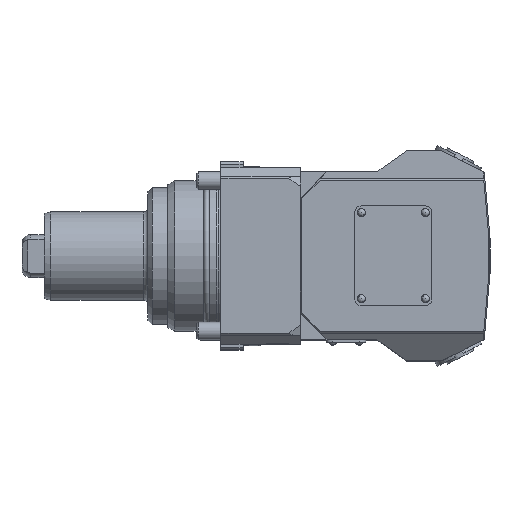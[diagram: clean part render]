
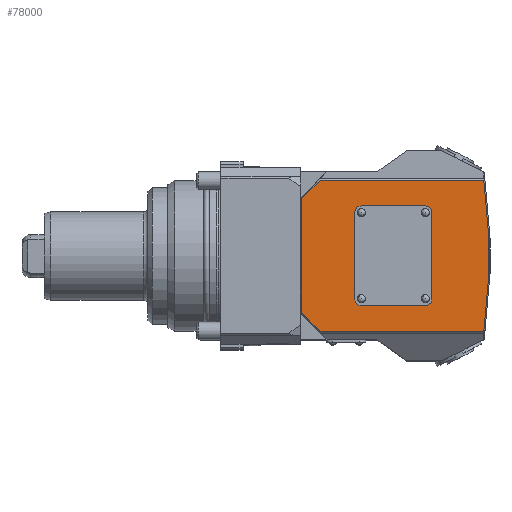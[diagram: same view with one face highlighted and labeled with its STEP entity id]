
A CAD part, top view. The second image highlights one B-rep face of the part: STEP entity #78000.
In plain terms, the highlighted planar face has unit normal (0, 0, 1).
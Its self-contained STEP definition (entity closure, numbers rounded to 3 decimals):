
#34302=CIRCLE('',#75937,3.);
#34303=CIRCLE('',#75938,3.);
#34304=CIRCLE('',#75939,3.);
#34305=CIRCLE('',#75940,3.);
#36768=ORIENTED_EDGE('',*,*,#46270,.F.);
#36769=ORIENTED_EDGE('',*,*,#46271,.F.);
#36770=ORIENTED_EDGE('',*,*,#46272,.F.);
#36771=ORIENTED_EDGE('',*,*,#46273,.F.);
#36772=ORIENTED_EDGE('',*,*,#46274,.F.);
#36773=ORIENTED_EDGE('',*,*,#46275,.F.);
#36774=ORIENTED_EDGE('',*,*,#46267,.F.);
#36775=ORIENTED_EDGE('',*,*,#46276,.F.);
#36776=ORIENTED_EDGE('',*,*,#46277,.F.);
#36777=ORIENTED_EDGE('',*,*,#46278,.T.);
#36778=ORIENTED_EDGE('',*,*,#46279,.F.);
#36779=ORIENTED_EDGE('',*,*,#46280,.T.);
#36780=ORIENTED_EDGE('',*,*,#46281,.F.);
#36781=ORIENTED_EDGE('',*,*,#46282,.T.);
#36782=ORIENTED_EDGE('',*,*,#46283,.F.);
#36783=ORIENTED_EDGE('',*,*,#46284,.T.);
#40846=VECTOR('',#53321,1.);
#40849=VECTOR('',#53326,1.);
#40850=VECTOR('',#53327,1.);
#40851=VECTOR('',#53328,1.);
#40852=VECTOR('',#53329,1.);
#40853=VECTOR('',#53330,1.);
#40854=VECTOR('',#53331,1.);
#40855=VECTOR('',#53332,1.);
#40856=VECTOR('',#53333,1.);
#40857=VECTOR('',#53336,1.);
#40858=VECTOR('',#53339,1.);
#40859=VECTOR('',#53342,1.);
#42251=LINE('',#63211,#40846);
#42254=LINE('',#63218,#40849);
#42255=LINE('',#63220,#40850);
#42256=LINE('',#63222,#40851);
#42257=LINE('',#63224,#40852);
#42258=LINE('',#63226,#40853);
#42259=LINE('',#63227,#40854);
#42260=LINE('',#63228,#40855);
#42261=LINE('',#63231,#40856);
#42262=LINE('',#63235,#40857);
#42263=LINE('',#63239,#40858);
#42264=LINE('',#63243,#40859);
#43939=VERTEX_POINT('',#63206);
#43940=VERTEX_POINT('',#63210);
#43942=VERTEX_POINT('',#63216);
#43943=VERTEX_POINT('',#63217);
#43944=VERTEX_POINT('',#63219);
#43945=VERTEX_POINT('',#63221);
#43946=VERTEX_POINT('',#63223);
#43947=VERTEX_POINT('',#63225);
#43948=VERTEX_POINT('',#63229);
#43949=VERTEX_POINT('',#63230);
#43950=VERTEX_POINT('',#63232);
#43951=VERTEX_POINT('',#63234);
#43952=VERTEX_POINT('',#63236);
#43953=VERTEX_POINT('',#63238);
#43954=VERTEX_POINT('',#63240);
#43955=VERTEX_POINT('',#63242);
#46267=EDGE_CURVE('',#43939,#43940,#42251,.T.);
#46270=EDGE_CURVE('',#43942,#43943,#42254,.T.);
#46271=EDGE_CURVE('',#43944,#43942,#42255,.T.);
#46272=EDGE_CURVE('',#43945,#43944,#42256,.T.);
#46273=EDGE_CURVE('',#43946,#43945,#42257,.T.);
#46274=EDGE_CURVE('',#43947,#43946,#42258,.T.);
#46275=EDGE_CURVE('',#43940,#43947,#42259,.T.);
#46276=EDGE_CURVE('',#43943,#43939,#42260,.T.);
#46277=EDGE_CURVE('',#43948,#43949,#42261,.T.);
#46278=EDGE_CURVE('',#43948,#43950,#34302,.T.);
#46279=EDGE_CURVE('',#43951,#43950,#42262,.T.);
#46280=EDGE_CURVE('',#43951,#43952,#34303,.T.);
#46281=EDGE_CURVE('',#43953,#43952,#42263,.T.);
#46282=EDGE_CURVE('',#43953,#43954,#34304,.T.);
#46283=EDGE_CURVE('',#43955,#43954,#42264,.T.);
#46284=EDGE_CURVE('',#43955,#43949,#34305,.T.);
#48553=EDGE_LOOP('',(#36768,#36769,#36770,#36771,#36772,#36773,#36774,#36775));
#48554=EDGE_LOOP('',(#36776,#36777,#36778,#36779,#36780,#36781,#36782,#36783));
#49991=FACE_BOUND('',#48553,.T.);
#49992=FACE_BOUND('',#48554,.T.);
#53321=DIRECTION('',(-74.022,0.,0.));
#53324=DIRECTION('',(0.,0.,1.));
#53325=DIRECTION('',(0.,-1.,0.));
#53326=DIRECTION('',(0.,-15.956,0.));
#53327=DIRECTION('',(2.296,-26.246,0.));
#53328=DIRECTION('',(74.022,0.,0.));
#53329=DIRECTION('',(8.431,8.431,0.));
#53330=DIRECTION('',(0.,51.586,0.));
#53331=DIRECTION('',(-8.431,8.431,0.));
#53332=DIRECTION('',(-2.296,-26.246,0.));
#53333=DIRECTION('',(-29.,0.,0.));
#53334=DIRECTION('',(0.,0.,-1.));
#53335=DIRECTION('',(3.,0.,0.));
#53336=DIRECTION('',(0.,39.,0.));
#53337=DIRECTION('',(0.,0.,-1.));
#53338=DIRECTION('',(3.,0.,0.));
#53339=DIRECTION('',(29.,0.,0.));
#53340=DIRECTION('',(0.,0.,-1.));
#53341=DIRECTION('',(3.,0.,0.));
#53342=DIRECTION('',(0.,-39.,0.));
#53343=DIRECTION('',(0.,0.,-1.));
#53344=DIRECTION('',(3.,0.,0.));
#63206=CARTESIAN_POINT('',(98.376,-2.305,-792.01));
#63210=CARTESIAN_POINT('',(24.354,-2.305,-792.01));
#63211=CARTESIAN_POINT('',(98.376,-2.305,-792.01));
#63215=CARTESIAN_POINT('',(101.172,31.919,-792.01));
#63216=CARTESIAN_POINT('',(100.672,39.897,-792.01));
#63217=CARTESIAN_POINT('',(100.672,23.941,-792.01));
#63218=CARTESIAN_POINT('',(100.672,39.897,-792.01));
#63219=CARTESIAN_POINT('',(98.376,66.144,-792.01));
#63220=CARTESIAN_POINT('',(98.376,66.144,-792.01));
#63221=CARTESIAN_POINT('',(24.354,66.144,-792.01));
#63222=CARTESIAN_POINT('',(24.354,66.144,-792.01));
#63223=CARTESIAN_POINT('',(15.922,57.712,-792.01));
#63224=CARTESIAN_POINT('',(15.922,57.712,-792.01));
#63225=CARTESIAN_POINT('',(15.922,6.126,-792.01));
#63226=CARTESIAN_POINT('',(15.922,6.126,-792.01));
#63227=CARTESIAN_POINT('',(24.354,-2.305,-792.01));
#63228=CARTESIAN_POINT('',(100.672,23.941,-792.01));
#63229=CARTESIAN_POINT('',(71.922,54.419,-792.01));
#63230=CARTESIAN_POINT('',(42.922,54.419,-792.01));
#63231=CARTESIAN_POINT('',(71.922,54.419,-792.01));
#63232=CARTESIAN_POINT('',(74.922,51.419,-792.01));
#63233=CARTESIAN_POINT('',(71.922,51.419,-792.01));
#63234=CARTESIAN_POINT('',(74.922,12.419,-792.01));
#63235=CARTESIAN_POINT('',(74.922,12.419,-792.01));
#63236=CARTESIAN_POINT('',(71.922,9.419,-792.01));
#63237=CARTESIAN_POINT('',(71.922,12.419,-792.01));
#63238=CARTESIAN_POINT('',(42.922,9.419,-792.01));
#63239=CARTESIAN_POINT('',(42.922,9.419,-792.01));
#63240=CARTESIAN_POINT('',(39.922,12.419,-792.01));
#63241=CARTESIAN_POINT('',(42.922,12.419,-792.01));
#63242=CARTESIAN_POINT('',(39.922,51.419,-792.01));
#63243=CARTESIAN_POINT('',(39.922,51.419,-792.01));
#63244=CARTESIAN_POINT('',(42.922,51.419,-792.01));
#75936=AXIS2_PLACEMENT_3D('',#63215,#53324,#53325);
#75937=AXIS2_PLACEMENT_3D('',#63233,#53334,#53335);
#75938=AXIS2_PLACEMENT_3D('',#63237,#53337,#53338);
#75939=AXIS2_PLACEMENT_3D('',#63241,#53340,#53341);
#75940=AXIS2_PLACEMENT_3D('',#63244,#53343,#53344);
#77036=PLANE('',#75936);
#78000=ADVANCED_FACE('',(#49991,#49992),#77036,.T.);
